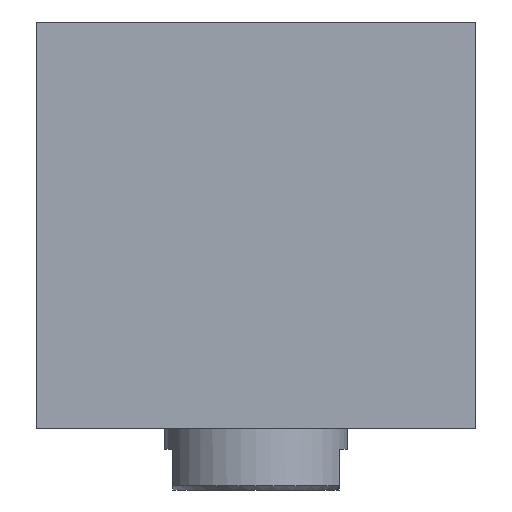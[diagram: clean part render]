
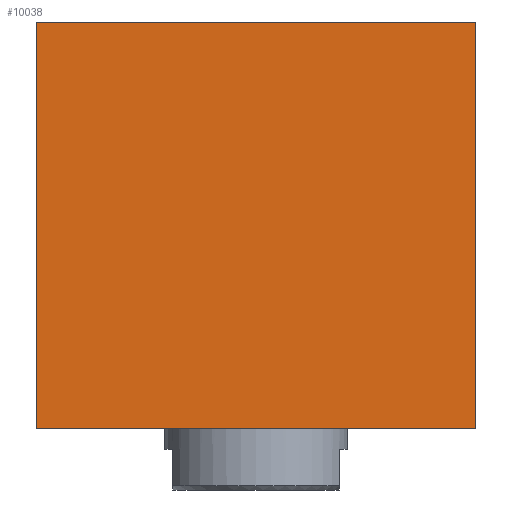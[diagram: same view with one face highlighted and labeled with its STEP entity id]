
A CAD part, left-side view. The second image highlights one B-rep face of the part: STEP entity #10038.
In plain terms, the highlighted planar face has unit normal (-1, 0, 0).
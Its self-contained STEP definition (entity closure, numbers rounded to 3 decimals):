
#652 = CARTESIAN_POINT ( 'NONE',  ( -72.5, 108., -50. ) ) ;
#865 = CARTESIAN_POINT ( 'NONE',  ( -72.5, 108., -50. ) ) ;
#966 = AXIS2_PLACEMENT_3D ( 'NONE', #2603, #11629, #3952 ) ;
#1324 = EDGE_CURVE ( 'NONE', #5261, #13532, #16434, .T. ) ;
#2540 = PLANE ( 'NONE',  #966 ) ;
#2603 = CARTESIAN_POINT ( 'NONE',  ( -72.5, 108., -50. ) ) ;
#3227 = EDGE_LOOP ( 'NONE', ( #11728, #12333, #16469, #14180 ) ) ;
#3255 = VECTOR ( 'NONE', #3472, 1000. ) ;
#3290 = LINE ( 'NONE', #652, #9705 ) ;
#3367 = DIRECTION ( 'NONE',  ( 0., 0., 1. ) ) ;
#3472 = DIRECTION ( 'NONE',  ( 0., -1., 0. ) ) ;
#3952 = DIRECTION ( 'NONE',  ( 0., 0., -1. ) ) ;
#3988 = CARTESIAN_POINT ( 'NONE',  ( -72.5, 108., -50. ) ) ;
#4438 = CARTESIAN_POINT ( 'NONE',  ( -72.5, 0., -50. ) ) ;
#4802 = CARTESIAN_POINT ( 'NONE',  ( -72.5, 108., 50. ) ) ;
#5261 = VERTEX_POINT ( 'NONE', #13183 ) ;
#5706 = DIRECTION ( 'NONE',  ( 0., 0., 1. ) ) ;
#8738 = EDGE_CURVE ( 'NONE', #14423, #15923, #15626, .T. ) ;
#8785 = VECTOR ( 'NONE', #3367, 1000. ) ;
#9705 = VECTOR ( 'NONE', #10865, 1000. ) ;
#10038 = ADVANCED_FACE ( 'NONE', ( #15001 ), #2540, .F. ) ;
#10043 = CARTESIAN_POINT ( 'NONE',  ( -72.5, 108., 50. ) ) ;
#10069 = LINE ( 'NONE', #4802, #3255 ) ;
#10865 = DIRECTION ( 'NONE',  ( 0., -1., 0. ) ) ;
#11629 = DIRECTION ( 'NONE',  ( 1., 0., 0. ) ) ;
#11728 = ORIENTED_EDGE ( 'NONE', *, *, #1324, .T. ) ;
#12333 = ORIENTED_EDGE ( 'NONE', *, *, #15483, .F. ) ;
#13035 = VECTOR ( 'NONE', #5706, 1000. ) ;
#13183 = CARTESIAN_POINT ( 'NONE',  ( -72.5, 0., -50. ) ) ;
#13532 = VERTEX_POINT ( 'NONE', #14205 ) ;
#13770 = EDGE_CURVE ( 'NONE', #14423, #5261, #3290, .T. ) ;
#14180 = ORIENTED_EDGE ( 'NONE', *, *, #13770, .T. ) ;
#14205 = CARTESIAN_POINT ( 'NONE',  ( -72.5, 0., 50. ) ) ;
#14423 = VERTEX_POINT ( 'NONE', #3988 ) ;
#15001 = FACE_OUTER_BOUND ( 'NONE', #3227, .T. ) ;
#15483 = EDGE_CURVE ( 'NONE', #15923, #13532, #10069, .T. ) ;
#15626 = LINE ( 'NONE', #865, #8785 ) ;
#15923 = VERTEX_POINT ( 'NONE', #10043 ) ;
#16434 = LINE ( 'NONE', #4438, #13035 ) ;
#16469 = ORIENTED_EDGE ( 'NONE', *, *, #8738, .F. ) ;
